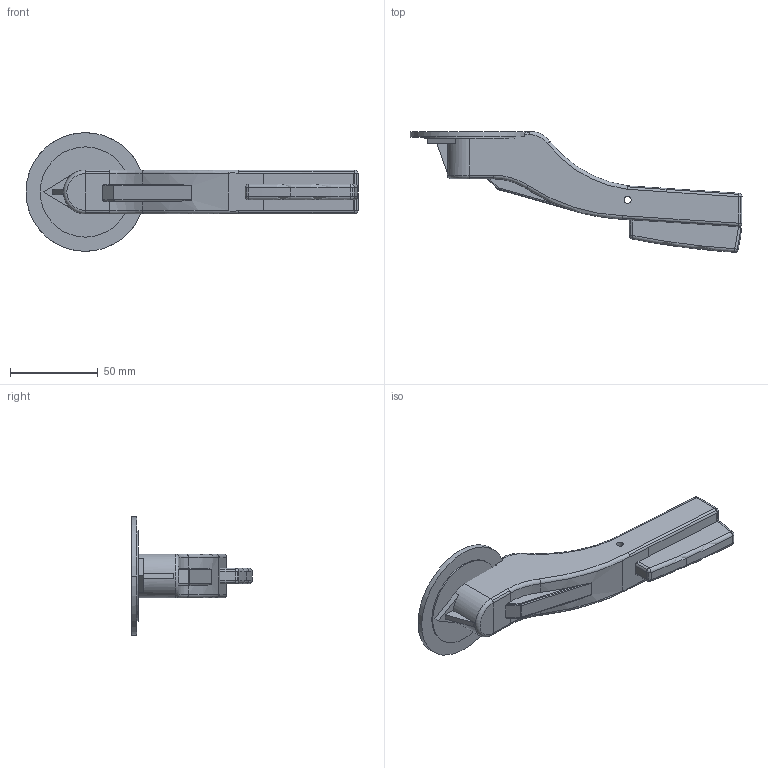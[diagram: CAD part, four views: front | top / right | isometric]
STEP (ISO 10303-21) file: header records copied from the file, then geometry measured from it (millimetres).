
FILE_DESCRIPTION((''),'2;1');
FILE_NAME('ASK46_1.dwg.stp','2006-10-04T11:29:43',(''),(''),'Mechanical Desktop 2006','Mechanical Desktop 2006',', , ');
FILE_SCHEMA(('AUTOMOTIVE_DESIGN { 1 2 10303 214 0 1 1 1 }'));
Length unit declared in the file: millimetre
Products named in the file (1): Product
Bounding box: 188.77 x 68.5 x 67.5 mm (x, y, z)
Volume: 115839.5 mm3; surface area: 32082.9 mm2
Topology: 3 solids, 3 shells, 129 faces, 340 edges, 208 vertices
Faces by surface type: cylinder 69, plane 37, sphere 12, torus 11
Entity records: 4224 total; most frequent: CARTESIAN_POINT 967, DIRECTION 716, ORIENTED_EDGE 662, EDGE_CURVE 331, AXIS2_PLACEMENT_3D 285, VERTEX_POINT 208, VECTOR 146, LINE 146
